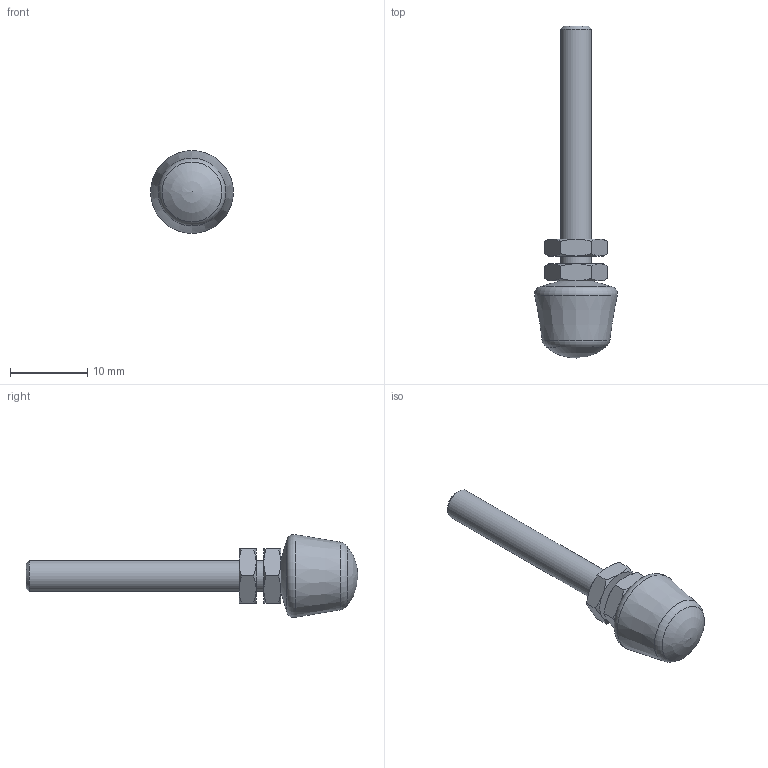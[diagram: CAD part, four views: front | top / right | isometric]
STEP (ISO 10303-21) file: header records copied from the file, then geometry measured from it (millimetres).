
FILE_DESCRIPTION( ( 'STEP AP203' ), '1' );
FILE_NAME( 'C:/Temp/Ganter_Step_05_03_2020/data/2_4/gn_708_1/gn_708_1_st/Clamping bolt GN 708.1-M4-43-B-ST (0).stp', '2020-03-13T05:51:10', ( 'License CC BY-ND 4.0' ), ( 'CADENAS' ), ' ', 'PARTsolutions', ' ' );
FILE_SCHEMA( ( 'CONFIG_CONTROL_DESIGN' ) );
Length unit declared in the file: millimetre
Products named in the file (3): Clamping bolt GN 708.1-M4-43-B-ST (0); _Andrueckschraube GN 708.1-M4-43-B-ST (0)-1; _Andrueckschraube GN 708.1-M4-43-B-ST-2
Assembly tree (3 placements, depth 2):
  Clamping bolt GN 708.1-M4-43-B-ST (0)
    _Andrueckschraube GN 708.1-M4-43-B-ST (0)-1
    _Andrueckschraube GN 708.1-M4-43-B-ST-2  x2
Bounding box: 10.73 x 43 x 10.73 mm (x, y, z)
Volume: 1201.3 mm3; surface area: 1061.4 mm2
Topology: 3 solids, 3 shells, 54 faces, 114 edges, 65 vertices
Faces by surface type: cone 31, plane 17, cylinder 3, torus 2, sphere 1
Full cylindrical faces by diameter (mm): 3.242 x2, 4 x1
Entity records: 926 total; most frequent: CARTESIAN_POINT 229, DIRECTION 122, ORIENTED_EDGE 106, AXIS2_PLACEMENT_3D 58, EDGE_CURVE 53, EDGE_LOOP 42, VERTEX_POINT 37, FACE_OUTER_BOUND 35
